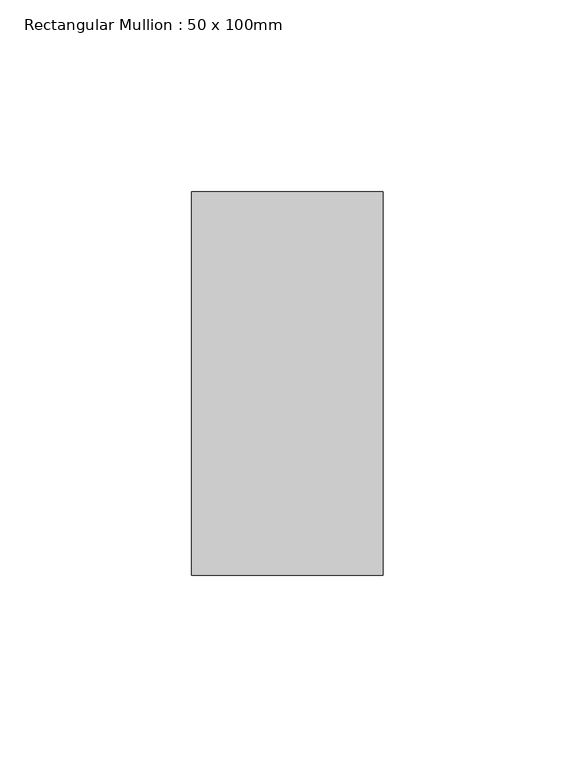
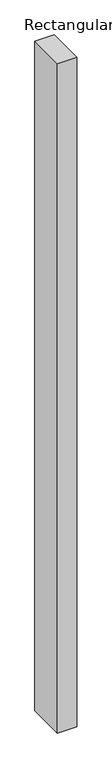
"""IFC4 building model written with IfcOpenShell, lengths in millimetres: member geometry, Rectangular Mullion : 50 x 100mm."""

from ifc_helpers import new_model, si_unit, frame, origin, place, context, project, spatial, polyline, outline, extrude, source, transform, mapped, element, save


def rectangular_mullion_50_x_100mm_1ab0dc9e(model_context):
    return source(origin(), model_context, "Body", "SweptSolid", [
        extrude(outline(polyline([(25.0, 50.0), (25.0, -50.0), (-25.0, -50.0), (-25.0, 50.0), (25.0, 50.0)])), frame((0.0, 0.0, -1817.1778424), z_axis=(0.0, 0.0, 1.0), x_axis=(1.0, 0.0, 0.0)), (0.0, 0.0, 1.0), 1817.1778424),
    ])


if __name__ == "__main__":
    model = new_model("IFC4")
    model_context = context("Model", 3, world=origin())
    ifc_project = project(units=[si_unit("LENGTHUNIT", "METRE", prefix="MILLI")], contexts=[model_context])
    site = spatial("IfcSite", under=ifc_project)
    building = spatial("IfcBuilding", under=site)
    placement = place(None, origin())
    rectangular_mullion_50_x_100mm_shape = rectangular_mullion_50_x_100mm_1ab0dc9e(model_context)
    element("IfcMember", 1, ObjectType="Rectangular Mullion : 50 x 100mm", at=placement, inside=building, context=model_context, shape_type="MappedRepresentation", body=[
        mapped(rectangular_mullion_50_x_100mm_shape, transform((0.0, 0.0, 0.0), x_axis=(1.0, 0.0, 0.0), y_axis=(0.0, 1.0, 0.0), z_axis=(0.0, 0.0, 1.0))),
    ])
    save(model, "model.ifc")
